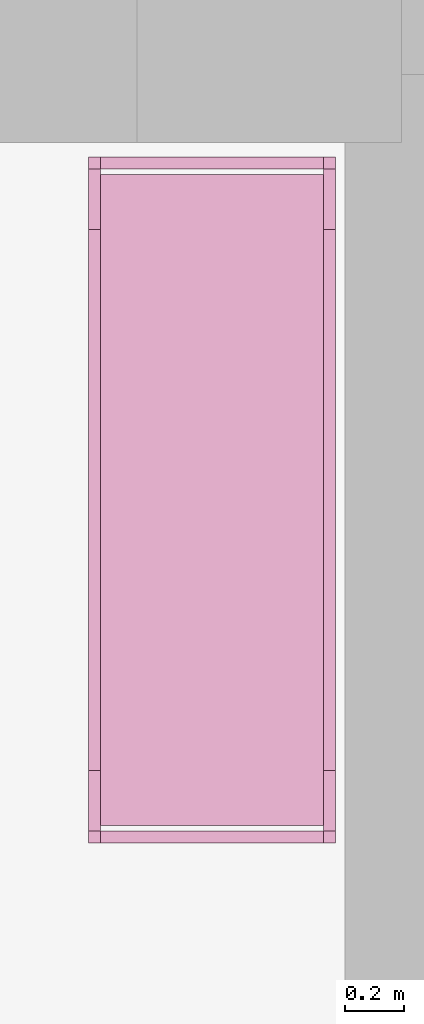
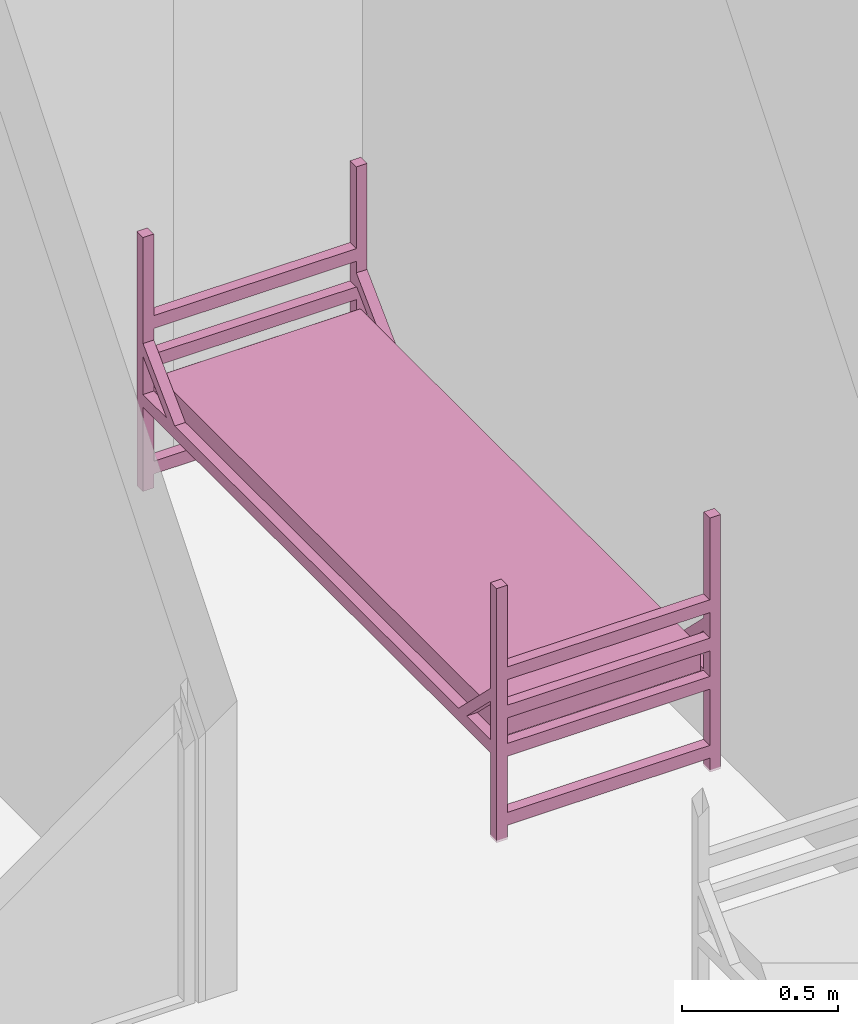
# One storey, part 34 of 46: 1 furnishing.
"""IFC2X3 building model written with IfcOpenShell, lengths in millimetres."""

from ifc_helpers import new_model, entity, si_unit, converted_unit, derived_unit, direction, frame, frame_2d, origin, origin_2d_with_axis, place, context, subcontext, project, spatial, polyline, circle_curve, parameter, trimmed, segment, composite_curve, rectangle, outline, extrude, source, transform, mapped, material, type_object, type_shapes, element, save


model = new_model("IFC2X3")

# Units and contexts
model_context = context("Model", 3, precision=0.01, world=origin(), true_north=direction((6.12303176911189e-17, 1.0)))
body_context = subcontext(model_context, "Body", "Model", "MODEL_VIEW")
ifc_project = project(units=[si_unit("LENGTHUNIT", "METRE", prefix="MILLI"), si_unit("AREAUNIT", "SQUARE_METRE"), si_unit("VOLUMEUNIT", "CUBIC_METRE"), converted_unit("PLANEANGLEUNIT", "DEGREE", entity("IfcRatioMeasure", 0.0174532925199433), si_unit("PLANEANGLEUNIT", "RADIAN"), dimensions=[0, 0, 0, 0, 0, 0, 0]), si_unit("MASSUNIT", "GRAM", prefix="KILO"), derived_unit("MASSDENSITYUNIT", [(si_unit("MASSUNIT", "GRAM", prefix="KILO"), 1), (si_unit("LENGTHUNIT", "METRE"), -3)]), si_unit("TIMEUNIT", "SECOND"), si_unit("FREQUENCYUNIT", "HERTZ"), si_unit("THERMODYNAMICTEMPERATUREUNIT", "DEGREE_CELSIUS"), derived_unit("THERMALTRANSMITTANCEUNIT", [(si_unit("MASSUNIT", "GRAM", prefix="KILO"), 1), (si_unit("THERMODYNAMICTEMPERATUREUNIT", "KELVIN"), -1), (si_unit("TIMEUNIT", "SECOND"), -3)]), derived_unit("VOLUMETRICFLOWRATEUNIT", [(si_unit("LENGTHUNIT", "METRE"), 3), (si_unit("TIMEUNIT", "SECOND"), -1)]), si_unit("ELECTRICCURRENTUNIT", "AMPERE"), si_unit("ELECTRICVOLTAGEUNIT", "VOLT"), si_unit("POWERUNIT", "WATT"), si_unit("FORCEUNIT", "NEWTON", prefix="KILO"), si_unit("ILLUMINANCEUNIT", "LUX"), si_unit("LUMINOUSFLUXUNIT", "LUMEN"), si_unit("LUMINOUSINTENSITYUNIT", "CANDELA"), derived_unit("USERDEFINED", [(si_unit("MASSUNIT", "GRAM", prefix="KILO"), -1), (si_unit("LENGTHUNIT", "METRE"), -2), (si_unit("TIMEUNIT", "SECOND"), 3), (si_unit("LUMINOUSFLUXUNIT", "LUMEN"), 1)]), derived_unit("LINEARVELOCITYUNIT", [(si_unit("LENGTHUNIT", "METRE"), 1), (si_unit("TIMEUNIT", "SECOND"), -1)]), si_unit("PRESSUREUNIT", "PASCAL"), derived_unit("USERDEFINED", [(si_unit("LENGTHUNIT", "METRE"), -2), (si_unit("MASSUNIT", "GRAM", prefix="KILO"), 1), (si_unit("TIMEUNIT", "SECOND"), -2)]), derived_unit("LINEARFORCEUNIT", [(si_unit("MASSUNIT", "GRAM", prefix="KILO"), 1), (si_unit("LENGTHUNIT", "METRE"), 1), (si_unit("TIMEUNIT", "SECOND"), -2), (si_unit("LENGTHUNIT", "METRE"), -1)]), derived_unit("PLANARFORCEUNIT", [(si_unit("MASSUNIT", "GRAM", prefix="KILO"), 1), (si_unit("LENGTHUNIT", "METRE"), 1), (si_unit("TIMEUNIT", "SECOND"), -2), (si_unit("LENGTHUNIT", "METRE"), -2)])], contexts=[model_context])

# Site, building, storey, space
site_placement = place(None, origin())
site = spatial("IfcSite", under=ifc_project, at=site_placement, Name="Default", CompositionType="ELEMENT")
building_placement = place(site_placement, origin())
building = spatial("IfcBuilding", under=site, at=building_placement, Name="SMA ARH", CompositionType="ELEMENT")
storey_placement = place(building_placement, frame((0.0, 0.0, 9910.0)))
storey = spatial("IfcBuildingStorey", under=building, at=storey_placement, Name="4 Korrus", CompositionType="ELEMENT", Elevation=9909.9999999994)
space_placement = place(storey_placement, origin())
space = spatial("IfcSpace", under=storey, at=space_placement, Name="4-6", CompositionType="ELEMENT", InteriorOrExteriorSpace="INTERNAL")

# Furnishing
ifc_material = material(Name="Madrats")
furniture_type = type_object("IfcFurnitureType", Name="Kasarmu voodi ühekordne 2308x830:Kasarmu voodi ühekordne 2308x830", material=ifc_material)
shared_shape = source(origin(), body_context, "Body", "SweptSolid", [
    extrude(rectangle(XDim=750.000000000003, YDim=39.9999999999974, at=frame_2d((0.0, 1.35003119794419e-13), x_axis=(1.0, 0.0))), frame((1.68638457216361, 1226.7969571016, 55.0)), (0.0, 0.0, 1.0), 49.9999999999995),
    extrude(rectangle(XDim=750.000000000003, YDim=39.9999999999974, at=frame_2d((0.0, 1.35003119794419e-13), x_axis=(1.0, 0.0))), frame((1.68638457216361, 1226.7969571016, 325.0)), (0.0, 0.0, 1.0), 49.9999999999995),
    extrude(rectangle(XDim=750.000000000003, YDim=39.9999999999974, at=frame_2d((0.0, 1.35003119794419e-13), x_axis=(1.0, 0.0))), frame((1.68638457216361, 1226.7969571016, 475.0)), (0.0, 0.0, 1.0), 49.9999999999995),
    extrude(rectangle(XDim=750.000000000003, YDim=39.9999999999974, at=frame_2d((0.0, 1.35003119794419e-13), x_axis=(1.0, 0.0))), frame((1.68638457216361, 1226.7969571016, 625.0)), (0.0, 0.0, 1.0), 50.0000000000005),
    extrude(rectangle(XDim=750.000000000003, YDim=39.9999999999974, at=origin_2d_with_axis()), frame((1.68638457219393, -1041.2030428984, 55.0)), (0.0, 0.0, 1.0), 50.0000000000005),
    extrude(rectangle(XDim=750.000000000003, YDim=39.9999999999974, at=origin_2d_with_axis()), frame((1.68638457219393, -1041.2030428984, 325.0)), (0.0, 0.0, 1.0), 50.0000000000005),
    extrude(rectangle(XDim=750.000000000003, YDim=39.9999999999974, at=origin_2d_with_axis()), frame((1.68638457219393, -1041.2030428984, 475.0)), (0.0, 0.0, 1.0), 50.0000000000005),
    extrude(rectangle(XDim=750.000000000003, YDim=39.9999999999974, at=origin_2d_with_axis()), frame((1.68638457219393, -1041.2030428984, 625.0)), (0.0, 0.0, 1.0), 49.9999999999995),
    extrude(outline(composite_curve([segment(polyline([(-1085.0, -50.0), (1085.0, -50.0)]), True, "CONTINUOUS"), segment(trimmed(circle_curve(frame_2d((1085.0, -40.0), x_axis=(-1.0, 0.0)), 10.0), [parameter(90.0000000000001)], [parameter(180.0)], True, "PARAMETER"), True, "CONTINUOUS"), segment(polyline([(1095.0, -40.0), (1095.0, 40.0)]), True, "CONTINUOUS"), segment(trimmed(circle_curve(frame_2d((1085.0, 40.0), x_axis=(-1.0, 0.0)), 10.0), [parameter(180.0)], [parameter(270.0)], True, "PARAMETER"), True, "CONTINUOUS"), segment(polyline([(1085.0, 50.0), (-1085.0, 50.0)]), True, "CONTINUOUS"), segment(trimmed(circle_curve(frame_2d((-1085.0, 40.0), x_axis=(-1.0, 0.0)), 10.0), [parameter(270.0)], [parameter(0.0)], True, "PARAMETER"), True, "CONTINUOUS"), segment(polyline([(-1095.0, 40.0), (-1095.0, -40.0)]), True, "CONTINUOUS"), segment(trimmed(circle_curve(frame_2d((-1085.0, -40.0), x_axis=(-1.0, 0.0)), 10.0), [parameter(0.0)], [parameter(90.0000000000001)], True, "PARAMETER"), True, "CONTINUOUS")], self_intersect=False)), frame((-373.313615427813, 92.7969571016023, 405.0), z_axis=(1.0, 0.0, 0.0), x_axis=(0.0, -1.0, 0.0)), (0.0, 0.0, 1.0), 750.000000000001),
    extrude(outline(polyline([(-100.0, -1114.0), (-50.0, -1114.0), (-50.0, -961.591991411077), (100.0, -1114.0), (150.0, -1114.0), (-50.0, -910.789321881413), (-50.0, 910.789321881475), (150.0, 1114.0), (100.0, 1114.0), (-50.0, 961.591991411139), (-50.0, 1114.0), (-100.0, 1114.0), (-100.0, -1114.0)])), frame((-413.313615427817, 92.7969571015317, 430.0), z_axis=(1.0, 0.0, 0.0), x_axis=(0.0, 0.0, 1.0)), (0.0, 0.0, 1.0), 39.9999999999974),
    extrude(outline(polyline([(-100.0, -1114.0), (-50.0, -1114.0), (-50.0, -961.591991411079), (100.0, -1114.0), (150.0, -1114.0), (-50.0, -910.789321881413), (-50.0, 910.789321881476), (150.0, 1114.0), (100.0, 1114.0), (-50.0, 961.591991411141), (-50.0, 1114.0), (-100.0, 1114.0), (-100.0, -1114.0)])), frame((376.686384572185, 92.796957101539, 430.0), z_axis=(1.0, 0.0, 0.0), x_axis=(0.0, 0.0, 1.0)), (0.0, 0.0, 1.0), 39.9999999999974),
    extrude(rectangle(XDim=39.9999999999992, YDim=39.9999999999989, at=frame_2d((0.0, -6.75015598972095e-14), x_axis=(1.0, 0.0))), frame((396.686384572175, 1226.79695710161, 0.0), z_axis=(0.0, 0.0, 1.0), x_axis=(-1.0, 0.0, 0.0)), (0.0, 0.0, 1.0), 995.0),
    extrude(rectangle(XDim=39.9999999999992, YDim=39.9999999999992, at=origin_2d_with_axis()), frame((396.686384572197, -1041.20304289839, 0.0), z_axis=(0.0, 0.0, 1.0), x_axis=(-1.0, 0.0, 0.0)), (0.0, 0.0, 1.0), 995.0),
    extrude(rectangle(XDim=39.9999999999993, YDim=40.0000000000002, at=origin_2d_with_axis()), frame((-393.313615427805, -1041.2030428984, 0.0), z_axis=(0.0, 0.0, 1.0), x_axis=(-1.0, 0.0, 0.0)), (0.0, 0.0, 1.0), 995.0),
    extrude(rectangle(XDim=39.9999999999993, YDim=39.9999999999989, at=frame_2d((0.0, -6.75015598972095e-14), x_axis=(1.0, 0.0))), frame((-393.313615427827, 1226.7969571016, 0.0), z_axis=(0.0, 0.0, 1.0), x_axis=(-1.0, 0.0, 0.0)), (0.0, 0.0, 1.0), 995.0),
])
type_shapes(furniture_type, [shared_shape])
furnishing_placement = place(space_placement, frame((30003.3136154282, 4900.0, 0.0), z_axis=(0.0, 0.0, 1.0), x_axis=(-1.0, 0.0, 0.0)))
element("IfcFurnishingElement", 1, at=furnishing_placement, inside=space, type_object=furniture_type, material=ifc_material, Name="Kasarmu voodi ühekordne 2308x830:Kasarmu voodi ühekordne 2308x830", ObjectType="Kasarmu voodi ühekordne 2308x830:Kasarmu voodi ühekordne 2308x830", context=body_context, shape_type="MappedRepresentation", body=[
    mapped(shared_shape, transform((0.0, 0.0, 0.0), scale=1.0)),
])

save(model, "model.ifc")
